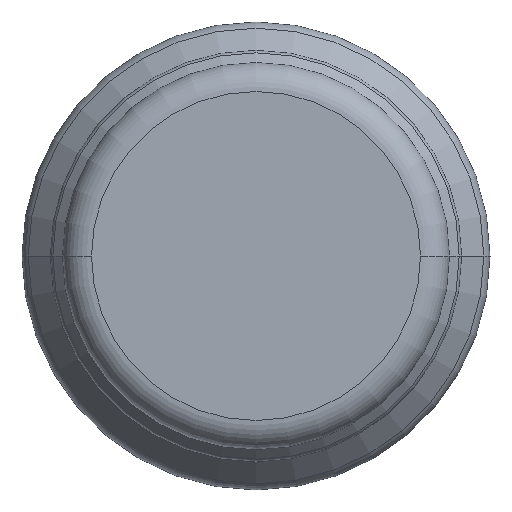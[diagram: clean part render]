
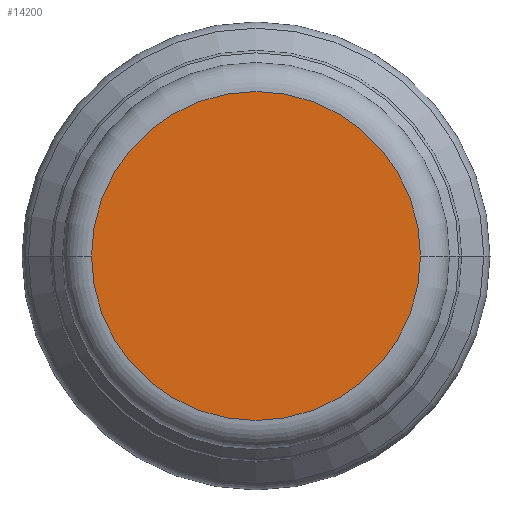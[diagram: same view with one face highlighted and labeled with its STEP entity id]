
A CAD part, front view. The second image highlights one B-rep face of the part: STEP entity #14200.
In plain terms, the highlighted planar face has unit normal (0, -1, 0).
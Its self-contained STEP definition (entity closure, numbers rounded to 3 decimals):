
#13860=CARTESIAN_POINT('',(53.294,189.645,0.));
#13870=VERTEX_POINT('',#13860);
#13960=CARTESIAN_POINT('',(7.394,189.645,0.));
#13970=VERTEX_POINT('',#13960);
#14000=CARTESIAN_POINT('',(30.344,189.645,0.));
#14010=DIRECTION('',(0.,1.,0.));
#14020=DIRECTION('',(1.,0.,0.));
#14030=AXIS2_PLACEMENT_3D('',#14000,#14010,#14020);
#14040=CIRCLE('',#14030,22.95);
#14050=EDGE_CURVE('',#13870,#13970,#14040,.T.);
#14100=CARTESIAN_POINT('',(22.699,189.645,
25.57));
#14110=DIRECTION('',(0.,-1.,0.));
#14120=DIRECTION('',(1.,0.,0.));
#14130=AXIS2_PLACEMENT_3D('',#14100,#14110,#14120);
#14140=PLANE('',#14130);
#14150=EDGE_CURVE('',#13970,#13870,#14040,.T.);
#14160=ORIENTED_EDGE('',*,*,#14150,.F.);
#14170=ORIENTED_EDGE('',*,*,#14050,.F.);
#14180=EDGE_LOOP('',(#14170,#14160));
#14190=FACE_OUTER_BOUND('',#14180,.T.);
#14200=ADVANCED_FACE('',(#14190),#14140,.T.);
